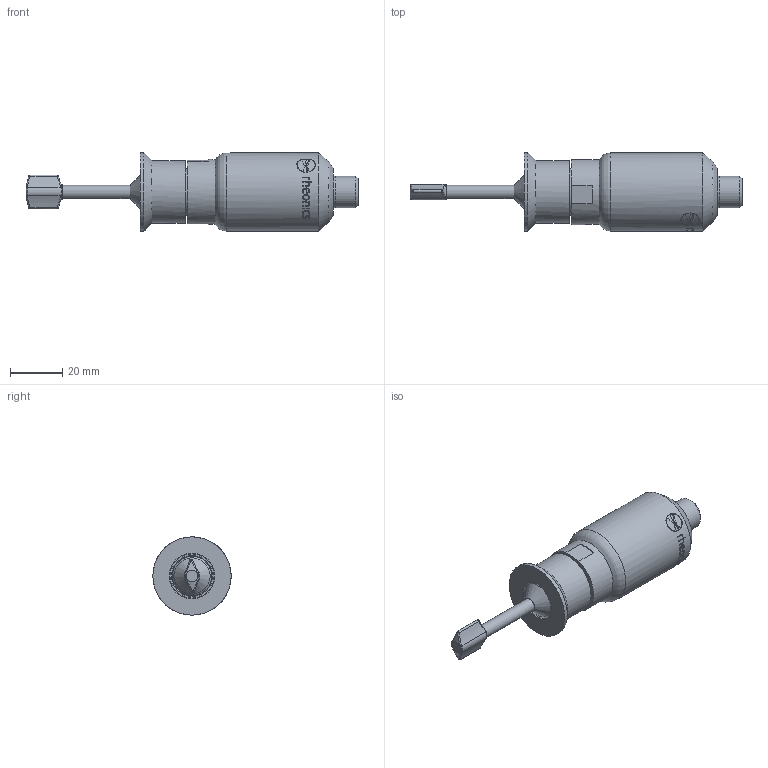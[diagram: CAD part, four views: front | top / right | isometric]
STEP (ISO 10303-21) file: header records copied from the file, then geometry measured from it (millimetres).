
FILE_DESCRIPTION(/* description */ ('Unknown'),/* implementation_level */ '2;1');
FILE_NAME(/* name */ 'SRD-X1-12G_HAW-12G-OTN',/* time_stamp */ '2023-06-05T11:31:21-05:00',/* author */ ('Unknown'),/* organization */ ('Unknown'),/* preprocessor_version */ 'ST-DEVELOPER v16.7',/* originating_system */ 'Solid Edge',/* authorisation */ 'Unknown');
FILE_SCHEMA (('AUTOMOTIVE_DESIGN {1 0 10303 214 3 1 1}'));
Length unit declared in the file: millimetre
Products named in the file (4): SRD-X1-12G_HAW-12G-OTN; G0.5-Oring; HAW-12G-OTN; SRD_G0.5_A
Assembly tree (3 placements, depth 2):
  SRD-X1-12G_HAW-12G-OTN
    G0.5-Oring
    HAW-12G-OTN
    SRD_G0.5_A
Bounding box: 127.35 x 30 x 30 mm (x, y, z)
Volume: 46742.2 mm3; surface area: 12296.7 mm2
Topology: 3 solids, 3 shells, 223 faces, 567 edges, 358 vertices
Faces by surface type: bspline 83, cylinder 56, plane 42, cone 18, torus 16, sphere 8
Full cylindrical faces by diameter (mm): 0.8 x8, 2 x1, 5.019 x1, 8 x1, 12 x2, 13.9 x1, 18 x1, 18.631 x1, 20.955 x1, 24 x1, 25 x1, 30 x2
Entity records: 9668 total; most frequent: CARTESIAN_POINT 5273, ORIENTED_EDGE 958, DIRECTION 636, EDGE_CURVE 479, VERTEX_POINT 330, FACE_BOUND 295, EDGE_LOOP 294, AXIS2_PLACEMENT_3D 248
